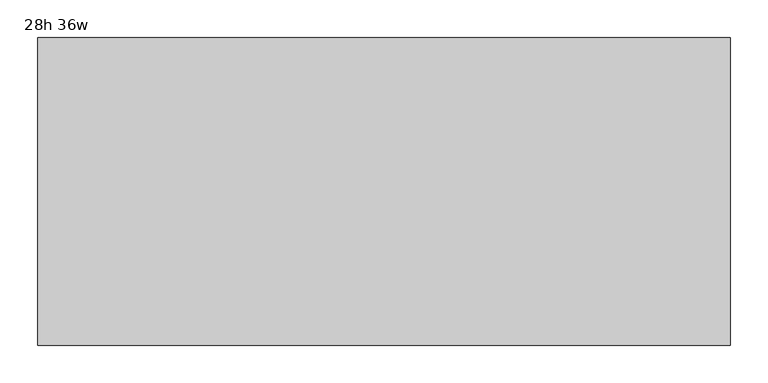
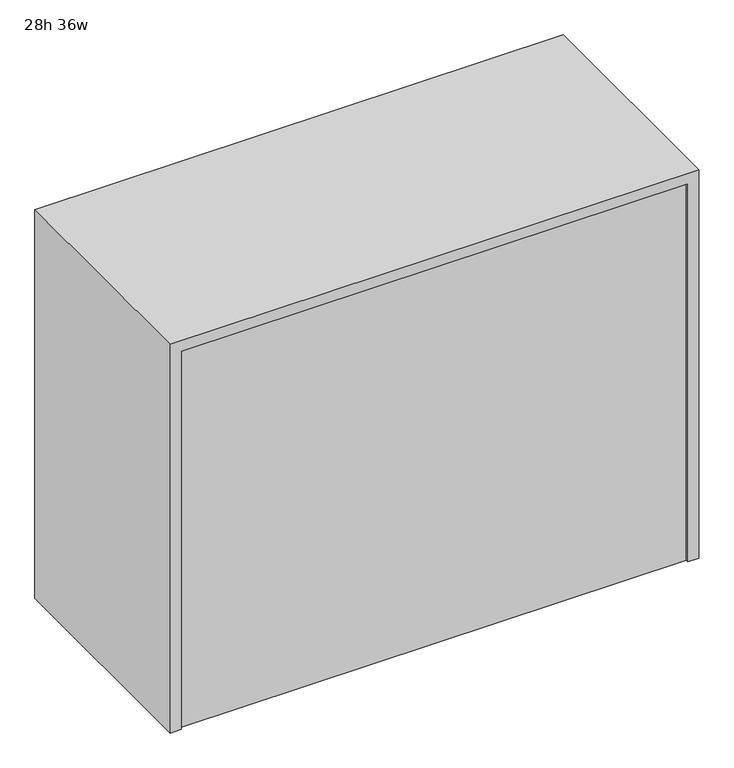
"""IFC4 building model written with IfcOpenShell, lengths in millimetres: furniture geometry, Haworth_BeHold_StackOnBookcase : 28h 36w."""

import ifcopenshell
import ifcopenshell.guid

model = None  # the IFC model being written
_history = None  # IfcOwnerHistory: only IFC2X3 demands one
_inside = {}  # id of a spatial element -> (the spatial element, [elements in it])
_under = {}  # id of a project, library or spatial element -> (it, [spatial elements below it])
_declared = {}  # id of a project -> (the project, [libraries it declares])
_typed = {}  # id of a type object -> (the type object, [elements of that type])
_made_of = {}  # id of a material, layer set ... -> (it, [elements and type objects made of it])


def new_model(schema):
    """Start an empty IFC model of exactly this schema.

    Asked for "IFC4X3", IfcOpenShell would pick the latest addendum, in which some entities
    have other attributes; the version numbers below select the first issue.
    IFC2X3 requires an IfcOwnerHistory on every rooted entity: one is made here for all.
    """
    global model, _history
    if schema == "IFC4X3":
        model = ifcopenshell.file(schema_version=(4, 3, 0, 0))
    else:
        model = ifcopenshell.file(schema=schema)
    _inside.clear()
    _under.clear()
    _declared.clear()
    _typed.clear()
    _made_of.clear()
    _history = None
    if model.schema == "IFC2X3":
        org = make("IfcOrganization", Name="unknown")
        user = make(
            "IfcPersonAndOrganization",
            ThePerson=make("IfcPerson", FamilyName="unknown"),
            TheOrganization=org,
        )
        app = make(
            "IfcApplication",
            ApplicationDeveloper=org,
            Version="unknown",
            ApplicationFullName="unknown",
            ApplicationIdentifier="unknown",
        )
        _history = make(
            "IfcOwnerHistory",
            OwningUser=user,
            OwningApplication=app,
            ChangeAction="ADDED",
            CreationDate=0,
        )
    return model


def make(cls, **values):
    """One entity of the class cls with the attributes given. An attribute that is None is left unset."""
    return model.create_entity(
        cls, **{name: value for name, value in values.items() if value is not None}
    )


def rooted(cls, **values):
    """An entity with a GlobalId (a new one), such as an element, a storey or a relation."""
    return make(cls, GlobalId=ifcopenshell.guid.new(), OwnerHistory=_history, **values)


def si_unit(unit_type, name, prefix=None):
    """IfcSIUnit, for example si_unit("LENGTHUNIT", "METRE", prefix="MILLI")."""
    return make("IfcSIUnit", UnitType=unit_type, Prefix=prefix, Name=name)


def assignment(units):
    """IfcUnitAssignment: the units of a project."""
    return None if units is None else make("IfcUnitAssignment", Units=units)


def point(xyz):
    """IfcCartesianPoint."""
    return None if xyz is None else make("IfcCartesianPoint", Coordinates=xyz)


def direction(xyz):
    """IfcDirection."""
    return None if xyz is None else make("IfcDirection", DirectionRatios=xyz)


def frame(location, z_axis=None, x_axis=None):
    """IfcAxis2Placement3D, a coordinate frame: its origin and axes. An axis left out is left unset."""
    return make(
        "IfcAxis2Placement3D",
        Location=point(location),
        Axis=direction(z_axis),
        RefDirection=direction(x_axis),
    )


def origin():
    """The frame at (0, 0, 0) with its axes left unset."""
    return frame((0.0, 0.0, 0.0))


def place(relative_to, where):
    """IfcLocalPlacement: puts the frame where relative to a parent placement (None: the world)."""
    return make(
        "IfcLocalPlacement", PlacementRelTo=relative_to, RelativePlacement=where
    )


def context(
    kind, dimensions, precision=None, world=None, true_north=None, identifier=None
):
    """IfcGeometricRepresentationContext, for example the 3D "Model" context."""
    return make(
        "IfcGeometricRepresentationContext",
        ContextIdentifier=identifier,
        ContextType=kind,
        CoordinateSpaceDimension=dimensions,
        Precision=precision,
        WorldCoordinateSystem=world,
        TrueNorth=true_north,
    )


def project(units=None, contexts=None):
    """IfcProject with its units and contexts."""
    return rooted(
        "IfcProject",
        Name="project",
        RepresentationContexts=contexts,
        UnitsInContext=assignment(units),
    )


def spatial(cls, under=None, at=None, **own):
    """A site, building, storey or space (cls), placed at a placement, below another one or the project."""
    s = rooted(cls, ObjectPlacement=at, **own)
    if under is not None:
        _under.setdefault(under.id(), (under, []))[1].append(s)
    return s


def polyline(points):
    """IfcPolyline through the points."""
    return make("IfcPolyline", Points=[point(p) for p in points])


def outline(outer, holes=None, kind="AREA"):
    """IfcArbitraryClosedProfileDef: a profile drawn as a closed curve; with holes, ...WithVoids."""
    if holes is None:
        return make("IfcArbitraryClosedProfileDef", ProfileType=kind, OuterCurve=outer)
    return make(
        "IfcArbitraryProfileDefWithVoids",
        ProfileType=kind,
        OuterCurve=outer,
        InnerCurves=holes,
    )


def extrude(swept, where, along, depth):
    """IfcExtrudedAreaSolid: the profile swept, set in the frame where, extruded along a direction by depth."""
    return make(
        "IfcExtrudedAreaSolid",
        SweptArea=swept,
        Position=where,
        ExtrudedDirection=direction(along),
        Depth=depth,
    )


def faces_of(points, faces, orient=None, outer=None):
    """IfcFace entities. A face is a list of loops; a loop is a list of indices into points, from 0.

    orient and outer hold one flag for each loop. By default every Orientation is true, the
    first loop of a face is its IfcFaceOuterBound and the others are IfcFaceBound.
    """
    made = []
    for i, loops in enumerate(faces):
        bounds = []
        for j, loop in enumerate(loops):
            is_outer = j == 0 if outer is None else outer[i][j]
            bounds.append(
                make(
                    "IfcFaceOuterBound" if is_outer else "IfcFaceBound",
                    Bound=make("IfcPolyLoop", Polygon=[points[k] for k in loop]),
                    Orientation=True if orient is None else orient[i][j],
                )
            )
        made.append(make("IfcFace", Bounds=bounds))
    return made


def faceted_brep(points, faces, orient=None, outer=None, voids=None):
    """IfcFacetedBrep: a solid bounded by flat faces; with voids (closed shells), ...WithVoids."""
    shared = [point(p) for p in points]
    hull = make("IfcClosedShell", CfsFaces=faces_of(shared, faces, orient, outer))
    if voids is None:
        return make("IfcFacetedBrep", Outer=hull)
    return make(
        "IfcFacetedBrepWithVoids",
        Outer=hull,
        Voids=[
            make(cls, CfsFaces=faces_of(shared, fs, o, b)) for cls, fs, o, b in voids
        ],
    )


def shape(context_of_items, identifier, shape_type, items):
    """IfcShapeRepresentation: the items that make up one representation, for example the "Body"."""
    return make(
        "IfcShapeRepresentation",
        ContextOfItems=context_of_items,
        RepresentationIdentifier=identifier,
        RepresentationType=shape_type,
        Items=items,
    )


def source(mapping_origin, context_of_items, identifier, shape_type, items):
    """IfcRepresentationMap: a shape defined once, which mapped items show again and again."""
    return make(
        "IfcRepresentationMap",
        MappingOrigin=mapping_origin,
        MappedRepresentation=shape(context_of_items, identifier, shape_type, items),
    )


def transform(
    local_origin,
    x_axis=None,
    y_axis=None,
    z_axis=None,
    scale=None,
    scale2=None,
    scale3=None,
    uniform=True,
):
    """IfcCartesianTransformationOperator3D, or its non-uniform kind. x_axis, y_axis, z_axis: its Axis1, 2, 3."""
    if uniform:
        return make(
            "IfcCartesianTransformationOperator3D",
            Axis1=direction(x_axis),
            Axis2=direction(y_axis),
            LocalOrigin=point(local_origin),
            Scale=scale,
            Axis3=direction(z_axis),
        )
    return make(
        "IfcCartesianTransformationOperator3DnonUniform",
        Axis1=direction(x_axis),
        Axis2=direction(y_axis),
        LocalOrigin=point(local_origin),
        Scale=scale,
        Axis3=direction(z_axis),
        Scale2=scale2,
        Scale3=scale3,
    )


def mapped(mapping_source, mapping_target):
    """IfcMappedItem: shows the shape of a source again, moved by a transform."""
    return make(
        "IfcMappedItem", MappingSource=mapping_source, MappingTarget=mapping_target
    )


def made_of(thing, what):
    """Note that an element or type object is made of a material, layer set ...; save() writes the relation."""
    if what is not None:
        _made_of.setdefault(what.id(), (what, []))[1].append(thing)
    return thing


def element(
    cls,
    number,
    at=None,
    inside=None,
    cuts=None,
    type_object=None,
    material=None,
    context=None,
    identifier="Body",
    shape_type=None,
    held_by="IfcProductDefinitionShape",
    body=None,
    shapes=None,
    **own,
):
    """One element of the class cls, such as IfcWall. Its Tag is "e" and its number.

    at: its placement. inside: the storey or other place that contains it. cuts: it is an
    opening in that element (IfcRelVoidsElement). A single representation is given by context,
    identifier, shape_type and body (its items); several are given by shapes. held_by: the class
    of the entity that holds the representations. save() writes the other relations.
    """
    e = rooted(cls, Tag="e%d" % number, ObjectPlacement=at, **own)
    if body is not None:
        shapes = [shape(context, identifier, shape_type, body)]
    if shapes is not None:
        e.Representation = make(held_by, Representations=shapes)
    if inside is not None:
        _inside.setdefault(inside.id(), (inside, []))[1].append(e)
    if cuts is not None:
        rooted(
            "IfcRelVoidsElement", RelatingBuildingElement=cuts, RelatedOpeningElement=e
        )
    if type_object is not None:
        _typed.setdefault(type_object.id(), (type_object, []))[1].append(e)
    return made_of(e, material)


def aggregate(whole, parts):
    """IfcRelAggregates: a whole, such as a stair, and the parts it consists of."""
    return rooted("IfcRelAggregates", RelatingObject=whole, RelatedObjects=parts)


def save(model, path):
    """Write the relations noted so far, then the file.

    IfcRelAggregates (storeys below a building ...), IfcRelContainedInSpatialStructure (elements
    in a storey), IfcRelDefinesByType, IfcRelAssociatesMaterial and IfcRelDeclares: one each for
    every whole, place, type object, material and project.
    """
    for whole, parts in _under.values():
        aggregate(whole, parts)
    for where, things in _inside.values():
        rooted(
            "IfcRelContainedInSpatialStructure",
            RelatedElements=things,
            RelatingStructure=where,
        )
    for kind, things in _typed.values():
        rooted("IfcRelDefinesByType", RelatedObjects=things, RelatingType=kind)
    for what, things in _made_of.values():
        rooted("IfcRelAssociatesMaterial", RelatedObjects=things, RelatingMaterial=what)
    for by, libraries in _declared.values():
        rooted("IfcRelDeclares", RelatingContext=by, RelatedDefinitions=libraries)
    model.write(path)


def furniture_28h_36w_e0649eac(model_context):
    return source(origin(), model_context, "Body", "SolidModel", [
        extrude(outline(polyline([(281.2908447, 98.425), (-595.0091553, 98.425), (-595.0091553, 485.775), (281.2908447, 485.775), (281.2908447, 98.425)])), frame((0.0, 0.0, 843.026), z_axis=(0.0, 0.0, 1.0), x_axis=(1.0, 0.0, 0.0)), (0.0, 0.0, 1.0), 19.05),
        faceted_brep([(-595.0091553, 495.3, 577.85), (-595.0091553, 112.7125, 577.85), (281.2908447, 112.7125, 577.85), (281.2908447, 495.3, 577.85), (-614.0591553, 88.9, 558.8), (-614.0591553, 495.3, 558.8), (300.3408447, 495.3, 558.8), (300.3408447, 88.9, 558.8), (281.2908447, 88.9, 558.8), (281.2908447, 93.6625, 558.8), (-595.0091553, 93.6625, 558.8), (-595.0091553, 88.9, 558.8), (281.2908447, 93.6625, 1250.95), (-595.0091553, 93.6625, 1250.95), (-614.0591553, 495.3, 1270.0), (-614.0591553, 88.9, 1270.0), (300.3408447, 495.3, 1270.0), (281.2908447, 495.3, 1250.95), (-595.0091553, 495.3, 1250.95), (300.3408447, 88.9, 1270.0), (-595.0091553, 88.9, 1250.95), (281.2908447, 88.9, 1250.95), (-595.0091553, 112.7125, 1250.95), (281.2908447, 112.7125, 1250.95)], [[[0, 1, 2, 3]], [[4, 5, 6, 7, 8, 9, 10, 11]], [[9, 12, 13, 10]], [[14, 5, 4, 15]], [[14, 16, 6, 5], [0, 3, 17, 18]], [[19, 7, 6, 16]], [[15, 19, 16, 14]], [[15, 4, 11, 20, 21, 8, 7, 19]], [[10, 13, 20, 11]], [[0, 18, 22, 1]], [[8, 21, 12, 9]], [[2, 23, 17, 3]], [[1, 22, 23, 2]], [[20, 13, 12, 21]], [[17, 23, 22, 18]]]),
    ])


if __name__ == "__main__":
    model = new_model("IFC4")
    model_context = context("Model", 3, world=origin())
    ifc_project = project(units=[si_unit("LENGTHUNIT", "METRE", prefix="MILLI")], contexts=[model_context])
    site = spatial("IfcSite", under=ifc_project)
    building = spatial("IfcBuilding", under=site)
    placement = place(None, origin())
    furniture_28h_36w_shape = furniture_28h_36w_e0649eac(model_context)
    element("IfcFurniture", 1, ObjectType="Haworth_BeHold_StackOnBookcase : 28h 36w", at=placement, inside=building, context=model_context, shape_type="MappedRepresentation", body=[
        mapped(furniture_28h_36w_shape, transform((0.0, 0.0, 0.0), x_axis=(1.0, 0.0, 0.0), y_axis=(0.0, 1.0, 0.0), z_axis=(0.0, 0.0, 1.0))),
    ])
    save(model, "model.ifc")
